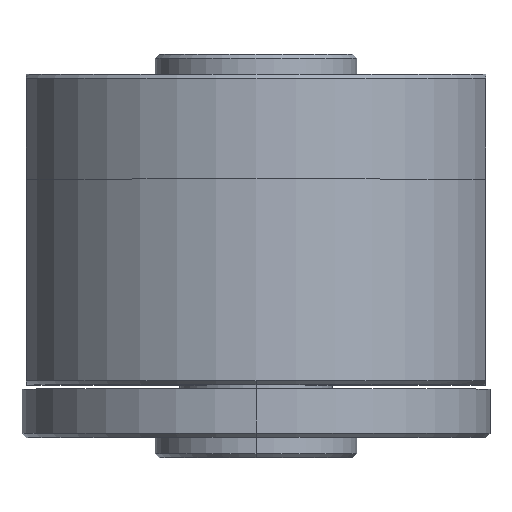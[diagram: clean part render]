
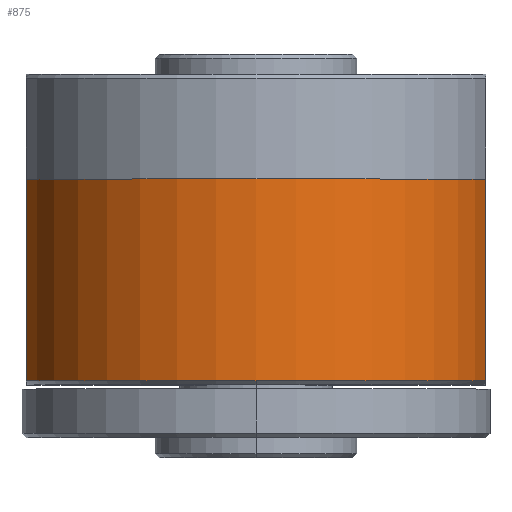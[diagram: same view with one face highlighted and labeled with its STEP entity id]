
A CAD part, top view. The second image highlights one B-rep face of the part: STEP entity #875.
In plain terms, the highlighted cylindrical face has radius 29 mm (diameter 58 mm), a partial arc.
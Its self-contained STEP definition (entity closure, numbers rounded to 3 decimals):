
#118 = LINE ( 'NONE', #5373, #4636 ) ;
#177 = EDGE_CURVE ( 'NONE', #406, #4125, #4039, .T. ) ;
#184 = DIRECTION ( 'NONE',  ( 0., -1., 0. ) ) ;
#302 = ORIENTED_EDGE ( 'NONE', *, *, #4662, .T. ) ;
#406 = VERTEX_POINT ( 'NONE', #3731 ) ;
#485 = EDGE_LOOP ( 'NONE', ( #5217, #4393, #302, #4827, #3070 ) ) ;
#660 = DIRECTION ( 'NONE',  ( 0., 0., -1. ) ) ;
#875 = ADVANCED_FACE ( 'NONE', ( #5055 ), #1383, .T. ) ;
#1154 = DIRECTION ( 'NONE',  ( 0., -1., 0. ) ) ;
#1383 = CYLINDRICAL_SURFACE ( 'NONE', #4329, 29. ) ;
#1558 = EDGE_CURVE ( 'NONE', #4320, #406, #2584, .T. ) ;
#1623 = EDGE_CURVE ( 'NONE', #3353, #4274, #3566, .T. ) ;
#2006 = AXIS2_PLACEMENT_3D ( 'NONE', #3695, #1154, #4131 ) ;
#2226 = EDGE_CURVE ( 'NONE', #4125, #3353, #3626, .T. ) ;
#2468 = DIRECTION ( 'NONE',  ( 0., 1., 0. ) ) ;
#2477 = DIRECTION ( 'NONE',  ( 0., 1., 0. ) ) ;
#2584 = CIRCLE ( 'NONE', #2006, 29. ) ;
#2586 = AXIS2_PLACEMENT_3D ( 'NONE', #5030, #2477, #5455 ) ;
#2602 = CARTESIAN_POINT ( 'NONE',  ( 28.5, -13., 5.362 ) ) ;
#2828 = DIRECTION ( 'NONE',  ( 0., 1., 0. ) ) ;
#3070 = ORIENTED_EDGE ( 'NONE', *, *, #177, .T. ) ;
#3353 = VERTEX_POINT ( 'NONE', #4967 ) ;
#3404 = CARTESIAN_POINT ( 'NONE',  ( 28.5, -38., 5.362 ) ) ;
#3566 = CIRCLE ( 'NONE', #2586, 29. ) ;
#3626 = CIRCLE ( 'NONE', #5498, 29. ) ;
#3695 = CARTESIAN_POINT ( 'NONE',  ( 0., -13., 0. ) ) ;
#3731 = CARTESIAN_POINT ( 'NONE',  ( -28.5, -13., 5.362 ) ) ;
#3862 = CARTESIAN_POINT ( 'NONE',  ( 0., -47.5, 0. ) ) ;
#4039 = LINE ( 'NONE', #5203, #4906 ) ;
#4121 = DIRECTION ( 'NONE',  ( 0., -1., 0. ) ) ;
#4125 = VERTEX_POINT ( 'NONE', #5417 ) ;
#4131 = DIRECTION ( 'NONE',  ( 0., 0., -1. ) ) ;
#4274 = VERTEX_POINT ( 'NONE', #3404 ) ;
#4320 = VERTEX_POINT ( 'NONE', #2602 ) ;
#4329 = AXIS2_PLACEMENT_3D ( 'NONE', #3862, #4121, #660 ) ;
#4393 = ORIENTED_EDGE ( 'NONE', *, *, #1623, .T. ) ;
#4636 = VECTOR ( 'NONE', #2828, 1000. ) ;
#4662 = EDGE_CURVE ( 'NONE', #4274, #4320, #118, .T. ) ;
#4827 = ORIENTED_EDGE ( 'NONE', *, *, #1558, .T. ) ;
#4906 = VECTOR ( 'NONE', #184, 1000. ) ;
#4967 = CARTESIAN_POINT ( 'NONE',  ( 0., -38., 29. ) ) ;
#5022 = CARTESIAN_POINT ( 'NONE',  ( 0., -38., 0. ) ) ;
#5030 = CARTESIAN_POINT ( 'NONE',  ( 0., -38., 0. ) ) ;
#5055 = FACE_OUTER_BOUND ( 'NONE', #485, .T. ) ;
#5203 = CARTESIAN_POINT ( 'NONE',  ( -28.5, -47.5, 5.362 ) ) ;
#5217 = ORIENTED_EDGE ( 'NONE', *, *, #2226, .T. ) ;
#5373 = CARTESIAN_POINT ( 'NONE',  ( 28.5, -47.5, 5.362 ) ) ;
#5417 = CARTESIAN_POINT ( 'NONE',  ( -28.5, -38., 5.362 ) ) ;
#5447 = DIRECTION ( 'NONE',  ( 0., 0., 1. ) ) ;
#5455 = DIRECTION ( 'NONE',  ( 0., 0., 1. ) ) ;
#5498 = AXIS2_PLACEMENT_3D ( 'NONE', #5022, #2468, #5447 ) ;
